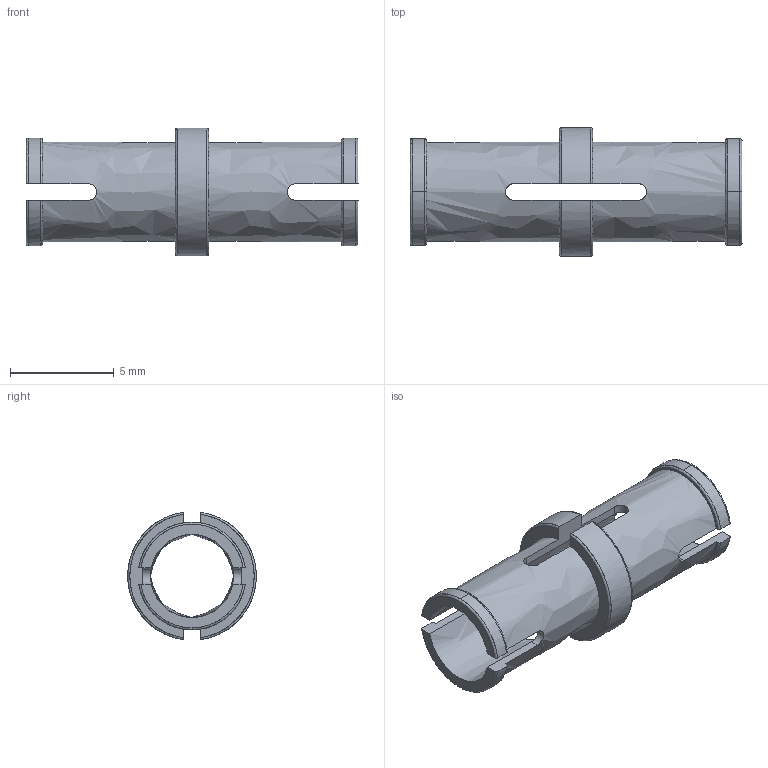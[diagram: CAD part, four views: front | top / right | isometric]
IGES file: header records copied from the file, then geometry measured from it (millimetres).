
Start section: C
Global section: file name: Black_4121715_MCM.iges; native system: By Siemens PLM Incorporated; preprocessor: XPlus GENERIC/IGES 26.1.183; author: Author; organization: Title; date: 20250721.234525; units: millimetre
Bounding box: 16 x 6.19 x 6.15 mm (x, y, z)
Surface area: 477.9 mm2 (no closed solid volume)
Topology: 0 solids, 0 shells, 61 faces, 568 edges, 568 vertices
Faces by surface type: bspline 61
